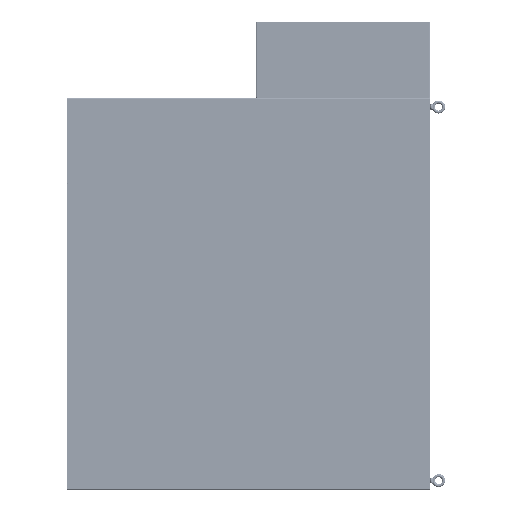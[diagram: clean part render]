
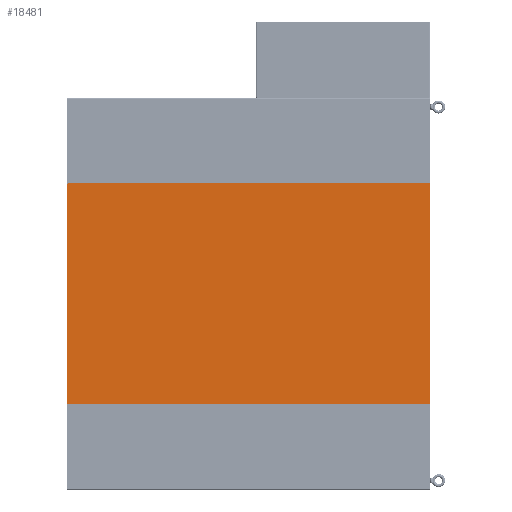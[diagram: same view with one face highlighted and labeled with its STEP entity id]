
A CAD part, left-side view. The second image highlights one B-rep face of the part: STEP entity #18481.
In plain terms, the highlighted planar face has unit normal (-1, 0, 0) as drawn and (0, 0, -1) by its records, which use the part's own axes.
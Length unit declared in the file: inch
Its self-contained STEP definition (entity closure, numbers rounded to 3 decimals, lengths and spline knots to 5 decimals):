
#18238=CARTESIAN_POINT('',(21.84375,-71.76075,-0.104));
#18239=DIRECTION('',(0.,0.,-1.));
#18240=DIRECTION('',(1.,0.,0.));
#18241=AXIS2_PLACEMENT_3D('',#18238,#18239,#18240);
#18246=DIRECTION('',(0.,1.,0.));
#18247=VECTOR('',#18246,71.7295);
#18248=CARTESIAN_POINT('',(21.875,-71.76075,-0.104));
#18249=LINE('',#18248,#18247);
#18253=CARTESIAN_POINT('',(21.84375,-0.03125,-0.104));
#18254=DIRECTION('',(0.,0.,-1.));
#18255=DIRECTION('',(0.,1.,0.));
#18256=AXIS2_PLACEMENT_3D('',#18253,#18254,#18255);
#18261=DIRECTION('',(-1.,0.,0.));
#18262=VECTOR('',#18261,43.6875);
#18263=CARTESIAN_POINT('',(21.84375,0.,-0.104));
#18264=LINE('',#18263,#18262);
#18268=CARTESIAN_POINT('',(-21.84375,-0.03125,-0.104));
#18269=DIRECTION('',(0.,0.,-1.));
#18270=DIRECTION('',(-1.,0.,0.));
#18271=AXIS2_PLACEMENT_3D('',#18268,#18269,#18270);
#18276=DIRECTION('',(0.,-1.,0.));
#18277=VECTOR('',#18276,71.7295);
#18278=CARTESIAN_POINT('',(-21.875,-0.03125,-0.104));
#18279=LINE('',#18278,#18277);
#18283=CARTESIAN_POINT('',(-21.84375,-71.76075,-0.104));
#18284=DIRECTION('',(0.,0.,-1.));
#18285=DIRECTION('',(0.,-1.,0.));
#18286=AXIS2_PLACEMENT_3D('',#18283,#18284,#18285);
#18291=DIRECTION('',(1.,0.,0.));
#18292=VECTOR('',#18291,43.6875);
#18293=CARTESIAN_POINT('',(-21.84375,-71.792,-0.104));
#18294=LINE('',#18293,#18292);
#18302=CARTESIAN_POINT('',(21.875,-71.76075,-0.104));
#18303=VERTEX_POINT('',#18302);
#18304=CARTESIAN_POINT('',(21.84375,-71.792,-0.104));
#18305=VERTEX_POINT('',#18304);
#18310=CARTESIAN_POINT('',(21.84375,0.,-0.104));
#18311=VERTEX_POINT('',#18310);
#18312=CARTESIAN_POINT('',(21.875,-0.03125,-0.104));
#18313=VERTEX_POINT('',#18312);
#18318=CARTESIAN_POINT('',(-21.84375,-71.792,-0.104));
#18319=VERTEX_POINT('',#18318);
#18320=CARTESIAN_POINT('',(-21.84375,0.,-0.104));
#18321=VERTEX_POINT('',#18320);
#18324=CARTESIAN_POINT('',(-21.875,-71.76075,-0.104));
#18325=VERTEX_POINT('',#18324);
#18328=CARTESIAN_POINT('',(-21.875,-0.03125,-0.104));
#18329=VERTEX_POINT('',#18328);
#18466=CARTESIAN_POINT('',(0.,0.,-0.104));
#18467=DIRECTION('',(0.,0.,1.));
#18468=DIRECTION('',(1.,0.,0.));
#18469=AXIS2_PLACEMENT_3D('',#18466,#18467,#18468);
#18470=PLANE('',#18469);
#18471=ORIENTED_EDGE('',*,*,#18362,.F.);
#18472=ORIENTED_EDGE('',*,*,#18378,.T.);
#18473=ORIENTED_EDGE('',*,*,#18391,.F.);
#18474=ORIENTED_EDGE('',*,*,#18406,.T.);
#18475=ORIENTED_EDGE('',*,*,#18419,.F.);
#18476=ORIENTED_EDGE('',*,*,#18432,.T.);
#18477=ORIENTED_EDGE('',*,*,#18447,.F.);
#18478=ORIENTED_EDGE('',*,*,#18459,.T.);
#18479=EDGE_LOOP('',(#18471,#18472,#18473,#18474,#18475,#18476,#18477,#18478));
#18480=FACE_OUTER_BOUND('',#18479,.F.);
#18242=CIRCLE('',#18241,0.03125);
#18257=CIRCLE('',#18256,0.03125);
#18272=CIRCLE('',#18271,0.03125);
#18287=CIRCLE('',#18286,0.03125);
#18362=EDGE_CURVE('',#18303,#18305,#18242,.T.);
#18378=EDGE_CURVE('',#18303,#18313,#18249,.T.);
#18391=EDGE_CURVE('',#18311,#18313,#18257,.T.);
#18406=EDGE_CURVE('',#18311,#18321,#18264,.T.);
#18419=EDGE_CURVE('',#18329,#18321,#18272,.T.);
#18432=EDGE_CURVE('',#18329,#18325,#18279,.T.);
#18447=EDGE_CURVE('',#18319,#18325,#18287,.T.);
#18459=EDGE_CURVE('',#18319,#18305,#18294,.T.);
#18481=ADVANCED_FACE('',(#18480),#18470,.F.);
